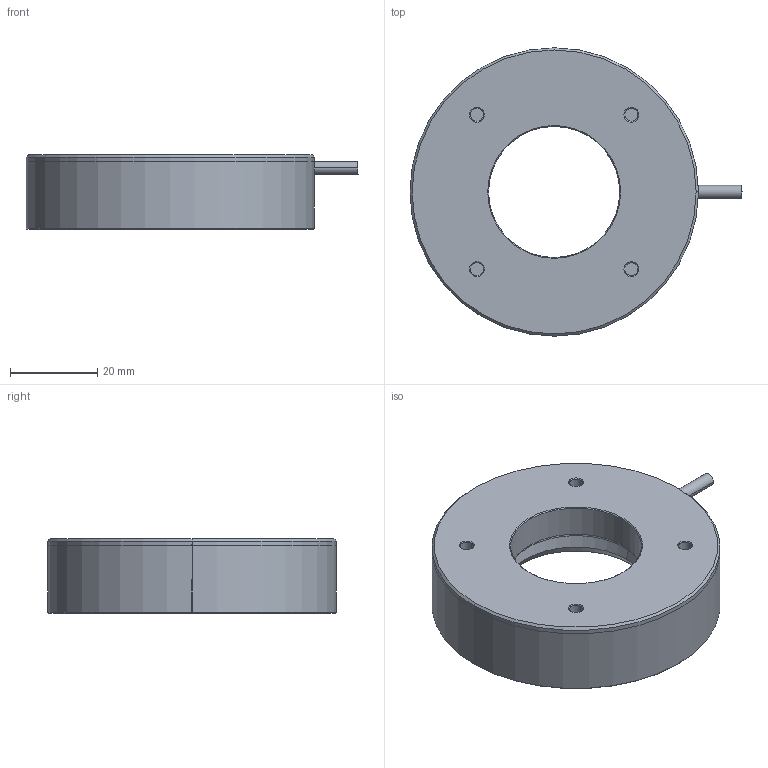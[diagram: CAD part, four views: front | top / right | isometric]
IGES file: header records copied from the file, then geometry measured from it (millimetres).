
Start section: 3D InterOp IGES (Version 24 0 1), Spatial Corp. Copyright (c) 1999-2007.
Global section: file name: VL-DR3066 3D.iges; native system: Spatial Corp.; preprocessor: 3D InterOp ACIS/IGES; author: Noname; organization: Noname; date: 20140129.105136; units: millimetre
Bounding box: 76 x 66 x 17 mm (x, y, z)
Surface area: 11975.6 mm2 (no closed solid volume)
Topology: 0 solids, 0 shells, 59 faces, 233 edges, 234 vertices
Faces by surface type: revolution 50, extrusion 9
